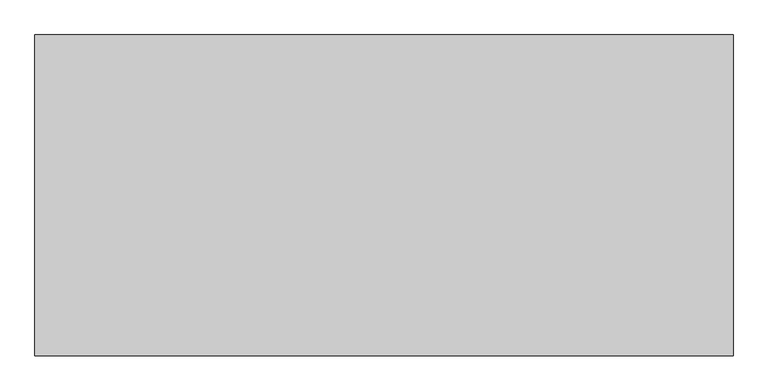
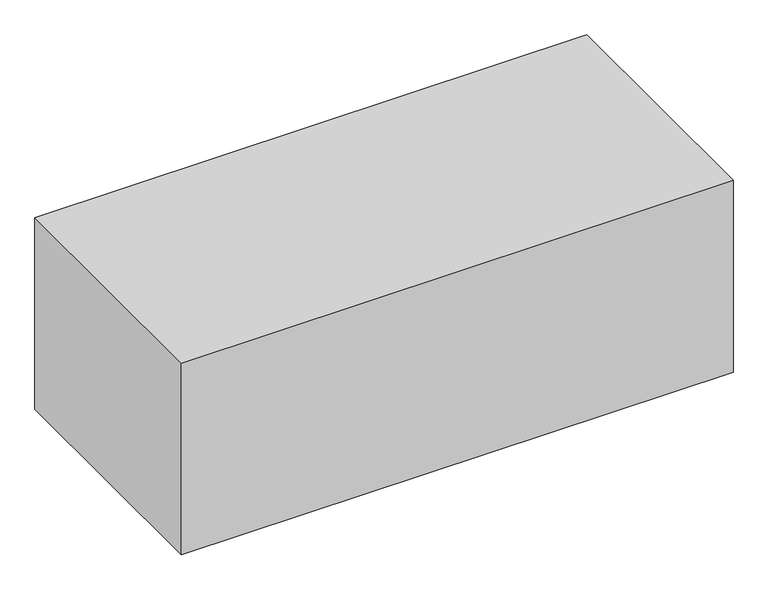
"""IFC4 building model written with IfcOpenShell, lengths in millimetres: geographic element geometry, r 低木密植 : 低木密植."""

from ifc_helpers import new_model, si_unit, origin, origin_with_axes, place, context, project, spatial, polyline, outline, extrude, source, transform, mapped, element, save


def geographic_element_46d341d1(model_context):
    return source(origin(), model_context, "Body", "SweptSolid", [
        extrude(outline(polyline([(0.0, 0.0), (0.0, 500.0), (1088.2224992, 500.0), (1088.2224992, 0.0), (0.0, 0.0)])), origin_with_axes(), (0.0, 0.0, 1.0), 400.0),
    ])


if __name__ == "__main__":
    model = new_model("IFC4")
    model_context = context("Model", 3, world=origin())
    ifc_project = project(units=[si_unit("LENGTHUNIT", "METRE", prefix="MILLI")], contexts=[model_context])
    site = spatial("IfcSite", under=ifc_project)
    building = spatial("IfcBuilding", under=site)
    placement = place(None, origin())
    geographic_element_shape = geographic_element_46d341d1(model_context)
    element("IfcGeographicElement", 1, ObjectType="r 低木密植 : 低木密植", at=placement, inside=building, context=model_context, shape_type="MappedRepresentation", body=[
        mapped(geographic_element_shape, transform((0.0, 0.0, 0.0), x_axis=(1.0, 0.0, 0.0), y_axis=(0.0, 1.0, 0.0), z_axis=(0.0, 0.0, 1.0))),
    ])
    save(model, "model.ifc")
